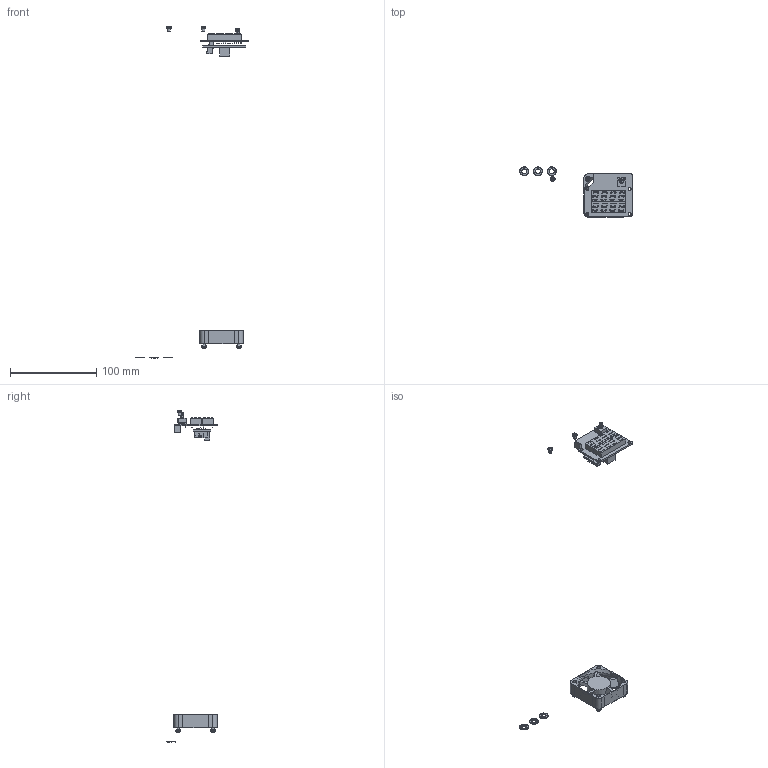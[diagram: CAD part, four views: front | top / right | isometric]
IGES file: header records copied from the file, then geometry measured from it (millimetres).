
Global section: file name: 2021.02.04_1.5kW 충전기; native system: Autodesk Inventor 2021; preprocessor: unknown; author: eunsol jang; date: 20210204.161835; units: inch
Bounding box: 130.35 x 58.24 x 384.57 mm (x, y, z)
Volume: 32128 mm3; surface area: 24972.6 mm2
Topology: 13 solids, 14 shells, 1465 faces, 3975 edges, 2654 vertices
Faces by surface type: bspline 1465
